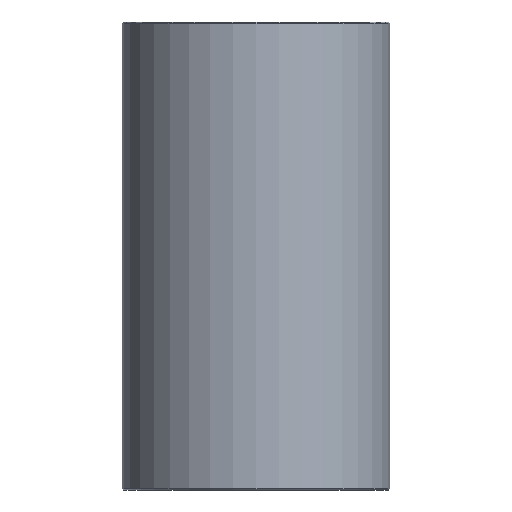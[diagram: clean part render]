
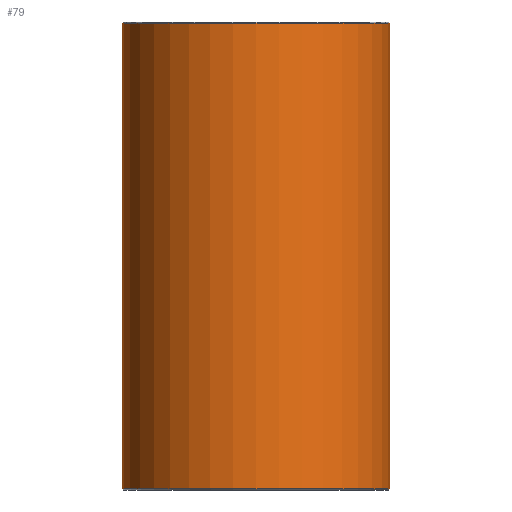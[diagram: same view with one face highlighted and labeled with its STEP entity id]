
A CAD part, front view. The second image highlights one B-rep face of the part: STEP entity #79.
In plain terms, the highlighted cylindrical face has radius 20 mm (diameter 40 mm), a full revolution.
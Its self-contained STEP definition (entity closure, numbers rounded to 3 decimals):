
#79=ADVANCED_FACE('',(#96,#97),#98,.T.);
#96=FACE_OUTER_BOUND('',#120,.T.);
#97=FACE_OUTER_BOUND('',#121,.T.);
#98=CYLINDRICAL_SURFACE('',#122,20.0);
#120=EDGE_LOOP('',(#152));
#121=EDGE_LOOP('',(#153));
#122=AXIS2_PLACEMENT_3D('',#154,#155,#156);
#152=ORIENTED_EDGE('',*,*,#178,.T.);
#153=ORIENTED_EDGE('',*,*,#177,.T.);
#154=CARTESIAN_POINT('',(0.,0.0,70.0));
#155=DIRECTION('',(0.0,0.0,-1.0));
#156=DIRECTION('',(-1.0,0.0,0.0));
#177=EDGE_CURVE('',#190,#190,#191,.T.);
#178=EDGE_CURVE('',#192,#192,#193,.F.);
#190=VERTEX_POINT('',#206);
#191=CIRCLE('',#207,20.0);
#192=VERTEX_POINT('',#208);
#193=CIRCLE('',#209,20.0);
#206=CARTESIAN_POINT('',(20.0,0.0,0.2));
#207=AXIS2_PLACEMENT_3D('',#227,#228,#229);
#208=CARTESIAN_POINT('',(20.0,0.,69.8));
#209=AXIS2_PLACEMENT_3D('',#230,#231,#232);
#227=CARTESIAN_POINT('',(0.,0.0,0.2));
#228=DIRECTION('',(0.0,0.0,1.0));
#229=DIRECTION('',(1.0,0.0,0.0));
#230=CARTESIAN_POINT('',(0.,0.0,69.8));
#231=DIRECTION('',(0.0,0.0,1.0));
#232=DIRECTION('',(1.0,0.0,0.0));
